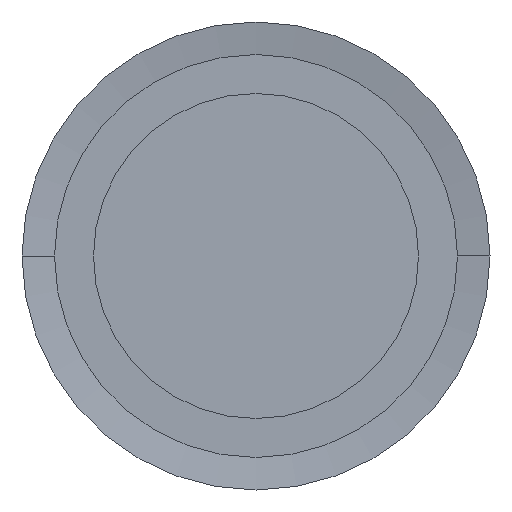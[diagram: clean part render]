
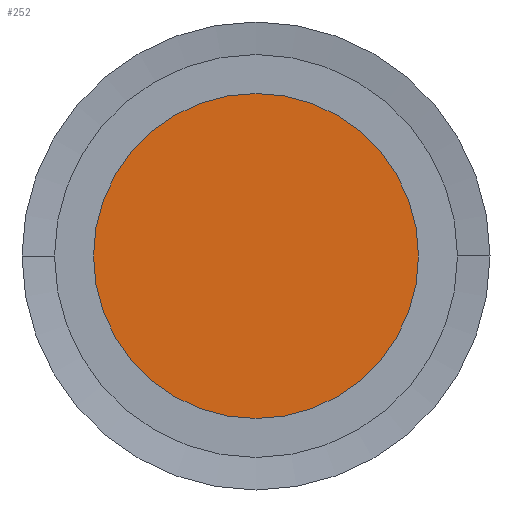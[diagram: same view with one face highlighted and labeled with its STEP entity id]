
A CAD part, left-side view. The second image highlights one B-rep face of the part: STEP entity #252.
In plain terms, the highlighted planar face has unit normal (-1, 0, 0).
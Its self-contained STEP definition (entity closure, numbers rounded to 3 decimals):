
#252 = ADVANCED_FACE( '', ( #613 ), #614, .T. );
#613 = FACE_OUTER_BOUND( '', #974, .T. );
#614 = PLANE( '', #975 );
#974 = EDGE_LOOP( '', ( #2515, #2516 ) );
#975 = AXIS2_PLACEMENT_3D( '', #2517, #2518, #2519 );
#2515 = ORIENTED_EDGE( '', *, *, #2523, .T. );
#2516 = ORIENTED_EDGE( '', *, *, #3024, .T. );
#2517 = CARTESIAN_POINT( '', ( 0., 6.25, 0. ) );
#2518 = DIRECTION( '', ( -1., 0., 0. ) );
#2519 = DIRECTION( '', ( 0., 1., 0. ) );
#2523 = EDGE_CURVE( '', #3026, #3030, #3032, .T. );
#3024 = EDGE_CURVE( '', #3030, #3026, #3863, .T. );
#3026 = VERTEX_POINT( '', #3865 );
#3030 = VERTEX_POINT( '', #3870 );
#3032 = CIRCLE( '', #3873, 12.5 );
#3863 = CIRCLE( '', #4987, 12.5 );
#3865 = CARTESIAN_POINT( '', ( 0., 12.5, 0. ) );
#3870 = CARTESIAN_POINT( '', ( 0., -12.5, 0. ) );
#3873 = AXIS2_PLACEMENT_3D( '', #4993, #4994, #4995 );
#4987 = AXIS2_PLACEMENT_3D( '', #5930, #5931, #5932 );
#4993 = CARTESIAN_POINT( '', ( 0., 0., 0. ) );
#4994 = DIRECTION( '', ( -1., 0., 0. ) );
#4995 = DIRECTION( '', ( 0., 1., 0. ) );
#5930 = CARTESIAN_POINT( '', ( 0., 0., 0. ) );
#5931 = DIRECTION( '', ( -1., 0., 0. ) );
#5932 = DIRECTION( '', ( 0., 1., 0. ) );
